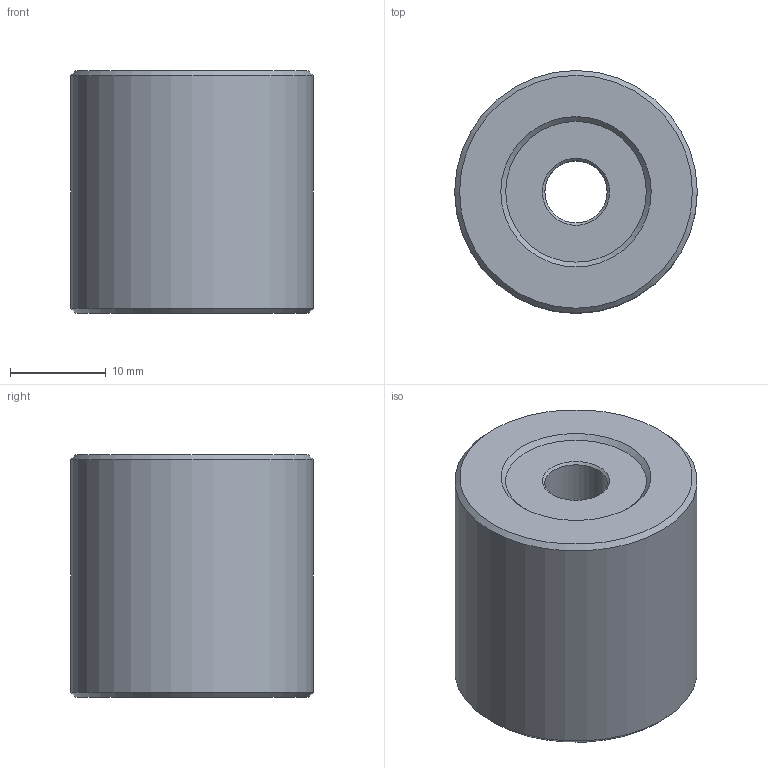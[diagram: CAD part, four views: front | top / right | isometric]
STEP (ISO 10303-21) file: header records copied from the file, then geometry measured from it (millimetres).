
FILE_DESCRIPTION(/* description */ ('Alibre Inc.'),/* implementation_level */ '2;1');
FILE_NAME(/* name */ 'export0',/* time_stamp */ '2014-02-03T22:16:25-05:00',/* author */ (''),/* organization */ (''),/* preprocessor_version */ 'ST-DEVELOPER v14',/* originating_system */ 'Alibre',/* authorisation */ '');
FILE_SCHEMA (('AUTOMOTIVE_DESIGN'));
Length unit declared in the file: centimetre
Bounding box: 25.4 x 25.4 x 25.4 mm (x, y, z)
Volume: 11847.2 mm3; surface area: 3439.4 mm2
Topology: 1 solids, 1 shells, 12 faces, 20 edges, 12 vertices
Faces by surface type: cone 6, plane 4, cylinder 2
Full cylindrical faces by diameter (mm): 6.528 x1, 25.4 x1
Entity records: 259 total; most frequent: DIRECTION 44, CARTESIAN_POINT 36, ORIENTED_EDGE 24, EDGE_LOOP 24, FACE_BOUND 24, AXIS2_PLACEMENT_3D 24, VERTEX_POINT 12, CIRCLE 12
